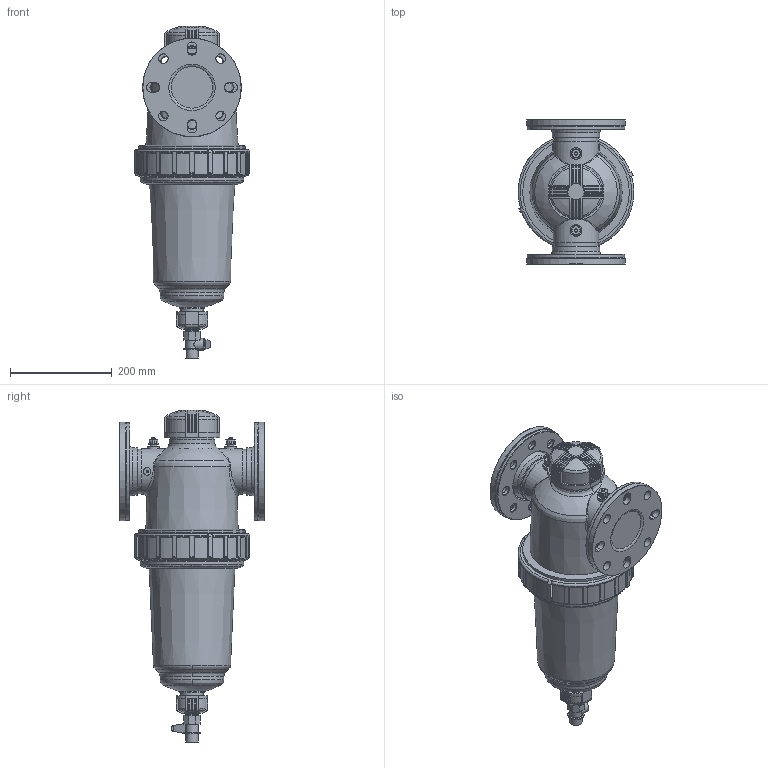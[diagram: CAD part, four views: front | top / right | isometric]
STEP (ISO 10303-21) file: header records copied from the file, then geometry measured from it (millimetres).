
FILE_DESCRIPTION( ( 'Unknown' ), '1' );
FILE_NAME( 'S:/Pirsum G/SAT/step/it/3.0 T FILTER FL-CAP_3.0inch.stp', 'Unknown', ( 'Unknown' ), ( 'Unknown' ), 'PSStep 10.0', 'Unknown', ' ' );
FILE_SCHEMA( ( 'AUTOMOTIVE_DESIGN { 1 0 10303 214 1 1 1 1 }' ) );
Length unit declared in the file: millimetre
Products named in the file (1): 11-2020-2100
Bounding box: 228 x 285 x 654 mm (x, y, z)
Volume: 9723245 mm3; surface area: 693029.8 mm2
Topology: 1 solids, 4 shells, 1045 faces, 2807 edges, 1799 vertices
Faces by surface type: plane 415, cylinder 395, cone 63, torus 55, bspline 48, sphere 43, revolution 26
Full cylindrical faces by diameter (mm): 3.5 x1, 6 x1, 6.8 x2, 7 x1, 8.96 x1, 13.635 x2, 14.858 x2, 17.5 x16, 18 x2, 19 x8, 22.8 x2, 24 x2, 37.5 x1, 44 x1, 49.1 x1, 85.9 x2, 90 x3, 92 x2, 94 x2, 103 x2, 104 x1, 111 x1, 126 x1, 185.783 x1, 192 x2, 194.6 x2, 204 x1, 210 x1, 222.8 x1
Entity records: 52575 total; most frequent: CARTESIAN_POINT 19521, ORIENTED_EDGE 5146, DIRECTION 5037, EDGE_CURVE 2573, AXIS2_PLACEMENT_3D 1957, VERTEX_POINT 1714, EDGE_LOOP 1256, FACE_OUTER_BOUND 1124
